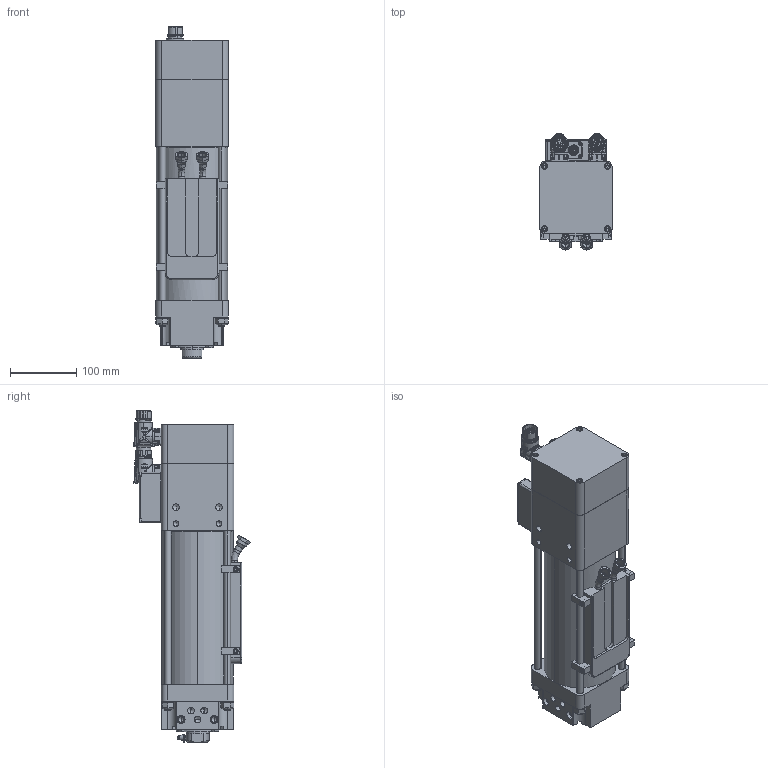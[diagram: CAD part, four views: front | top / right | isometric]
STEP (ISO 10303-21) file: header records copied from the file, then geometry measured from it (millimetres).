
FILE_DESCRIPTION (( 'STEP AP214' ), '1' );
FILE_NAME ('28440311 REV-A.STEP', '2022-06-15T16:15:19', ( '' ), ( '' ), 'SwSTEP 2.0', 'SolidWorks 2021', '' );
FILE_SCHEMA (( 'AUTOMOTIVE_DESIGN' ));
Length unit declared in the file: inch
Products named in the file (3): Thrust^28440311 REV-A; 28440311 REV-A; Base^28440311 REV-A
Assembly tree (2 placements, depth 2):
  28440311 REV-A
    Base^28440311 REV-A
    Thrust^28440311 REV-A
Bounding box: 110 x 176.01 x 502.28 mm (x, y, z)
Volume: 5126089 mm3; surface area: 404490.2 mm2
Topology: 2 solids, 10 shells, 3311 faces, 8705 edges, 5562 vertices
Faces by surface type: plane 1508, cylinder 940, bspline 378, cone 361, torus 106, sphere 18
Entity records: 138011 total; most frequent: CARTESIAN_POINT 59720, ORIENTED_EDGE 17226, DIRECTION 14010, EDGE_CURVE 8613, VERTEX_POINT 5560, AXIS2_PLACEMENT_3D 4943, LINE 4124, VECTOR 4124
